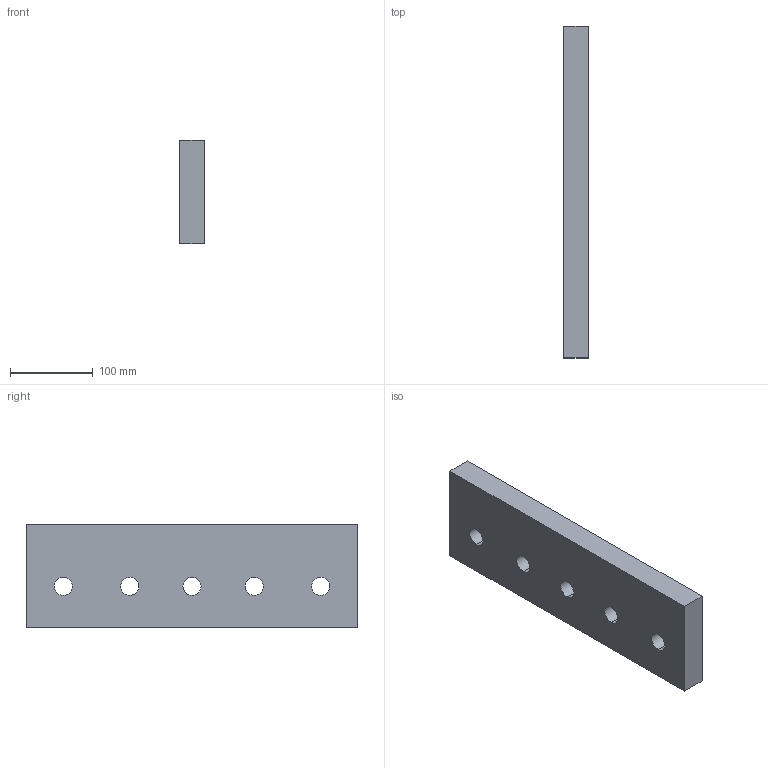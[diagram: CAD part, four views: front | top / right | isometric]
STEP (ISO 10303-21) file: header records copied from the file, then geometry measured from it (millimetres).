
FILE_DESCRIPTION(('CATIA V5 STEP Exchange'),'2;1');
FILE_NAME('C:\Users\Raffaele\Desktop\3D X SITO CF\A612\A611-125-400\A612-125-400.stp','2019-07-12T13:12:22+00:00',('none'),('none'),'CATIA Version 5 Release 20 GA (IN-10)','CATIA V5 STEP AP203','none');
FILE_SCHEMA(('CONFIG_CONTROL_DESIGN'));
Length unit declared in the file: millimetre
Products named in the file (1): A612-125-400
Bounding box: 30 x 400 x 125 mm (x, y, z)
Volume: 1442980.1 mm3; surface area: 138065.9 mm2
Topology: 1 solids, 1 shells, 16 faces, 62 edges, 48 vertices
Faces by surface type: cylinder 10, plane 6
Entity records: 968 total; most frequent: CARTESIAN_POINT 407, ORIENTED_EDGE 124, DIRECTION 74, EDGE_CURVE 62, VERTEX_POINT 48, AXIS2_PLACEMENT_3D 37, EDGE_LOOP 26, VECTOR 22
